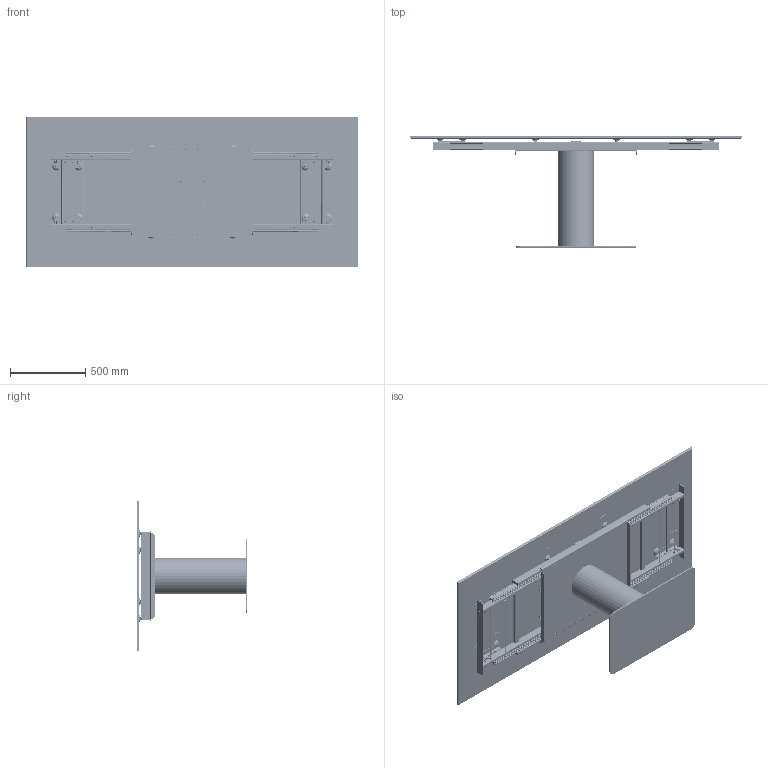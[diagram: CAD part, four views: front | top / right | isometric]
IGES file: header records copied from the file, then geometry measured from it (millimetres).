
Start section: SolidWorks IGES file using analytic representation for surfaces
Global section: file name: Y:\eforma\TECNICO\SOLIDWORKS\E-FORMA\1-TAVOLI\CILINDRO ALLUNGABILE\02 parts\CA32C.IGS; native system: SolidWorks 2022; preprocessor: SolidWorks 2022; author: eforma.tech; date: 240808.093645; units: millimetre
Bounding box: 2200.69 x 735.5 x 1000 mm (x, y, z)
Volume: 43811833.8 mm3; surface area: 15513988.3 mm2
Topology: 271 solids, 271 shells, 9060 faces, 22134 edges, 13848 vertices
Faces by surface type: plane 4158, revolution 3878, bspline 1024
